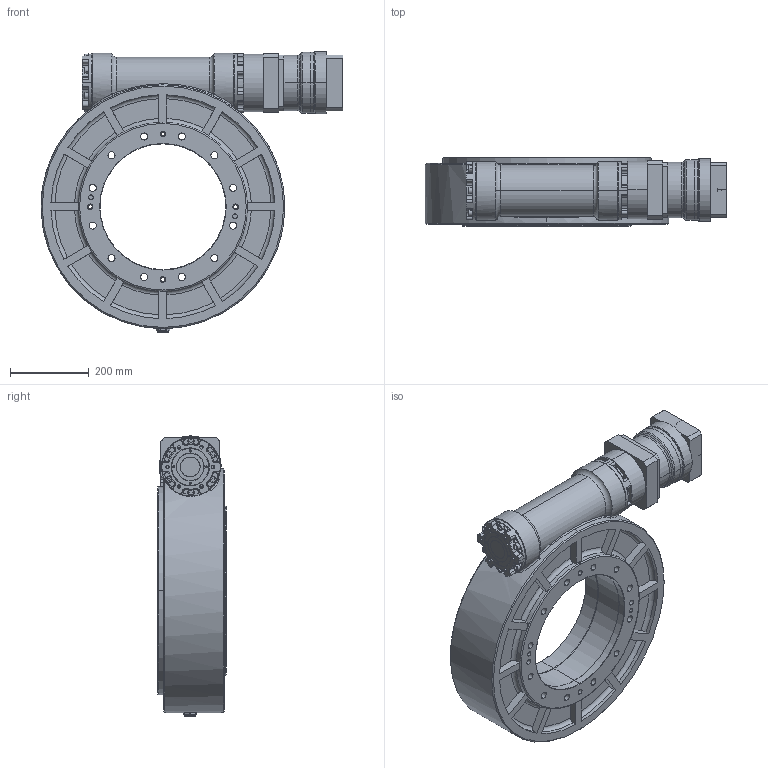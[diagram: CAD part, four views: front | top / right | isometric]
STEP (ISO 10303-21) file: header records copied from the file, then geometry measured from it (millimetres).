
FILE_DESCRIPTION (( 'STEP AP203' ), '1' );
FILE_NAME ('GH315-60R-PCB142-L1（22）.STEP', '2024-05-15T00:56:50', ( '微软用户' ), ( '微软中国' ), 'SwSTEP 2.0', 'SolidWorks 2016', '' );
FILE_SCHEMA (( 'CONFIG_CONTROL_DESIGN' ));
Length unit declared in the file: millimetre
Products named in the file (3): PCB142-L1-22-110-145-M8; GH315-60R-PCB142-L1（22）; HL315-60R-40-130-165-M10
Assembly tree (2 placements, depth 2):
  GH315-60R-PCB142-L1（22）
    HL315-60R-40-130-165-M10
    PCB142-L1-22-110-145-M8
Bounding box: 768 x 175 x 713 mm (x, y, z)
Volume: 2940923.8 mm3; surface area: 2111082.5 mm2
Topology: 3 solids, 31 shells, 924 faces, 2676 edges, 1809 vertices
Faces by surface type: cylinder 515, plane 265, cone 71, bspline 40, torus 33
Entity records: 36056 total; most frequent: CARTESIAN_POINT 10551, DIRECTION 5688, ORIENTED_EDGE 4793, EDGE_CURVE 2666, AXIS2_PLACEMENT_3D 2293, VERTEX_POINT 1809, CIRCLE 1403, EDGE_LOOP 1184
